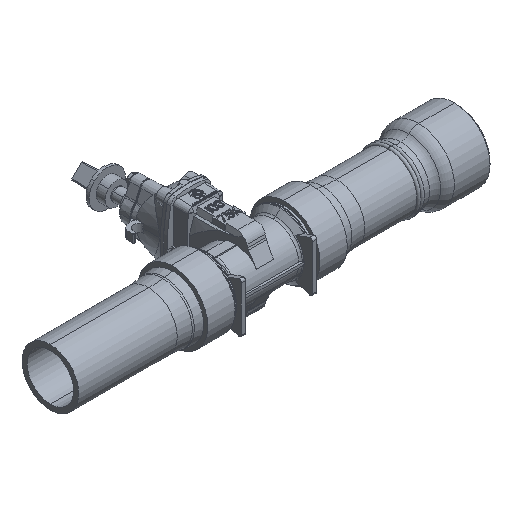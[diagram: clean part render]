
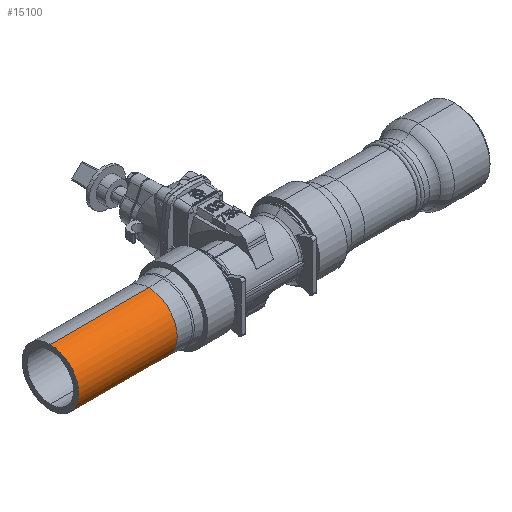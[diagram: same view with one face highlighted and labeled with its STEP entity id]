
A CAD part, isometric view. The second image highlights one B-rep face of the part: STEP entity #15100.
In plain terms, the highlighted cylindrical face has radius 62.5 mm (diameter 125 mm), a partial arc.
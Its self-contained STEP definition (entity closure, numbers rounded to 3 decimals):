
#108 = ORIENTED_EDGE ( 'NONE', *, *, #20684, .F. ) ;
#462 = CARTESIAN_POINT ( 'NONE',  ( 180.997, 0., -62.5 ) ) ;
#1510 = AXIS2_PLACEMENT_3D ( 'NONE', #24212, #14433, #24085 ) ;
#2232 = CARTESIAN_POINT ( 'NONE',  ( -423.5, 0., 62.5 ) ) ;
#3211 = VERTEX_POINT ( 'NONE', #2232 ) ;
#3801 = CARTESIAN_POINT ( 'NONE',  ( -423.5, 0., 0. ) ) ;
#4778 = CIRCLE ( 'NONE', #8016, 62.5 ) ;
#5346 = CARTESIAN_POINT ( 'NONE',  ( -206.623, 0., 62.5 ) ) ;
#5944 = DIRECTION ( 'NONE',  ( 1., 0., 0. ) ) ;
#8016 = AXIS2_PLACEMENT_3D ( 'NONE', #3801, #5944, #9619 ) ;
#8489 = FACE_OUTER_BOUND ( 'NONE', #18897, .T. ) ;
#8604 = AXIS2_PLACEMENT_3D ( 'NONE', #21865, #19964, #10306 ) ;
#9619 = DIRECTION ( 'NONE',  ( 0., 0., -1. ) ) ;
#10084 = CARTESIAN_POINT ( 'NONE',  ( 180.997, 0., 62.5 ) ) ;
#10306 = DIRECTION ( 'NONE',  ( 0., 0., -1. ) ) ;
#10394 = CARTESIAN_POINT ( 'NONE',  ( -206.623, 0., -62.5 ) ) ;
#10400 = VECTOR ( 'NONE', #13776, 1000. ) ;
#10505 = ORIENTED_EDGE ( 'NONE', *, *, #16256, .T. ) ;
#11995 = LINE ( 'NONE', #10084, #10400 ) ;
#12194 = VECTOR ( 'NONE', #25051, 1000. ) ;
#13776 = DIRECTION ( 'NONE',  ( 1., 0., 0. ) ) ;
#14433 = DIRECTION ( 'NONE',  ( 1., 0., 0. ) ) ;
#14456 = EDGE_CURVE ( 'NONE', #20238, #22512, #20762, .T. ) ;
#14689 = CYLINDRICAL_SURFACE ( 'NONE', #1510, 62.5 ) ;
#15100 = ADVANCED_FACE ( 'NONE', ( #8489 ), #14689, .T. ) ;
#16039 = VERTEX_POINT ( 'NONE', #16483 ) ;
#16256 = EDGE_CURVE ( 'NONE', #3211, #16039, #4778, .T. ) ;
#16483 = CARTESIAN_POINT ( 'NONE',  ( -423.5, 0., -62.5 ) ) ;
#17568 = LINE ( 'NONE', #462, #12194 ) ;
#18361 = EDGE_CURVE ( 'NONE', #16039, #22512, #17568, .T. ) ;
#18897 = EDGE_LOOP ( 'NONE', ( #108, #10505, #20239, #24569 ) ) ;
#19964 = DIRECTION ( 'NONE',  ( 1., 0., 0. ) ) ;
#20238 = VERTEX_POINT ( 'NONE', #5346 ) ;
#20239 = ORIENTED_EDGE ( 'NONE', *, *, #18361, .T. ) ;
#20684 = EDGE_CURVE ( 'NONE', #3211, #20238, #11995, .T. ) ;
#20762 = CIRCLE ( 'NONE', #8604, 62.5 ) ;
#21865 = CARTESIAN_POINT ( 'NONE',  ( -206.623, 0., 0. ) ) ;
#22512 = VERTEX_POINT ( 'NONE', #10394 ) ;
#24085 = DIRECTION ( 'NONE',  ( 0., 0., -1. ) ) ;
#24212 = CARTESIAN_POINT ( 'NONE',  ( 180.997, 0., 0. ) ) ;
#24569 = ORIENTED_EDGE ( 'NONE', *, *, #14456, .F. ) ;
#25051 = DIRECTION ( 'NONE',  ( 1., 0., 0. ) ) ;
